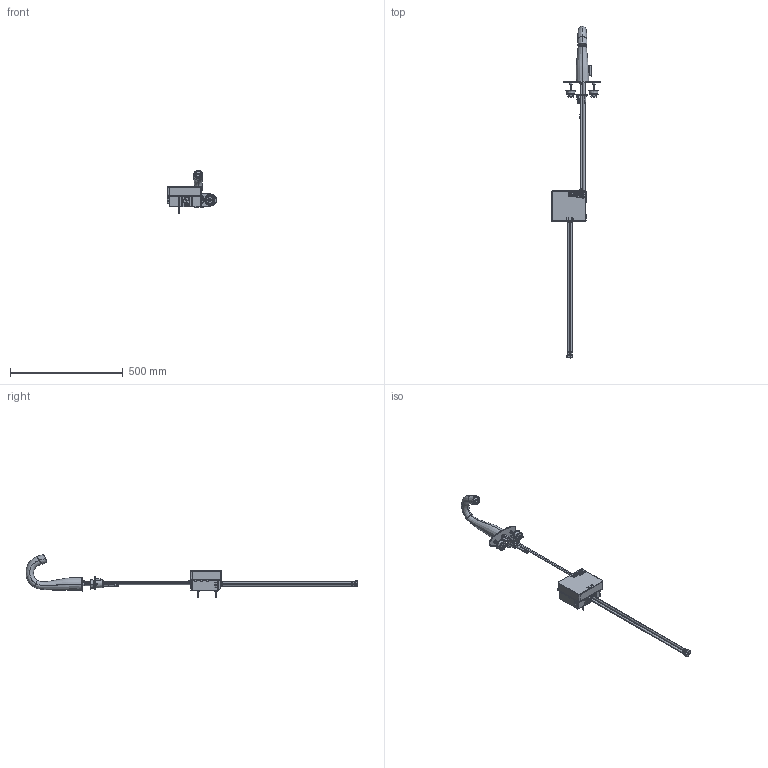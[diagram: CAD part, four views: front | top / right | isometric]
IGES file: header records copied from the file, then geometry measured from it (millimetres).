
Start section:  PTC IGES file: eq-c22a-14abcp_sw0001.igs
Global section: file name: eq-c22a-14abcp_sw0001.igs; native system: Creo Parametric by Parametric Technology Corporation; preprocessor: 2014310; author: rodjo; organization: Unknown; date: 20150423.155745; units: inch
Bounding box: 220.98 x 1471.79 x 191.02 mm (x, y, z)
Surface area: 318858.2 mm2 (no closed solid volume)
Topology: 0 solids, 0 shells, 1364 faces, 12752 edges, 17740 vertices
Faces by surface type: revolution 671, bspline 667, extrusion 26
